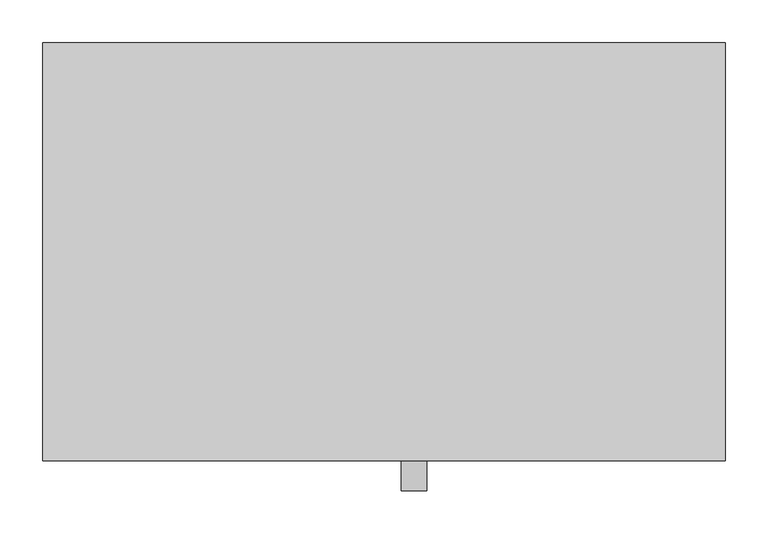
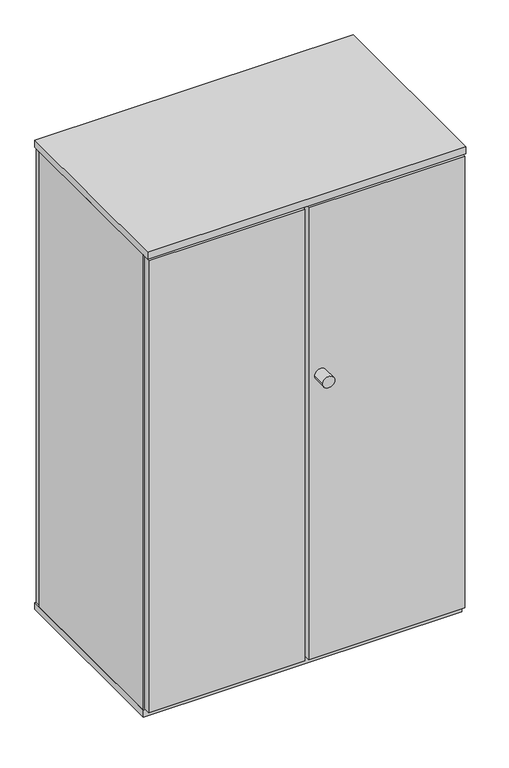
"""IFC4 building model written with IfcOpenShell, lengths in millimetres: furniture geometry, Grid Lockers - 2 Door Complimentary : GRID TWO DOOR CABINET 800mm(w) x 490mm(d) x 1256mm(h)."""

from ifc_helpers import new_model, si_unit, point, frame, frame_2d, origin, origin_with_axes, place, context, project, spatial, polyline, circle_curve, trimmed, segment, composite_curve, outline, extrude, source, transform, mapped, element, save


def furniture_dcb63cc3(model_context):
    return source(origin(), model_context, "Body", "SweptSolid", [
        extrude(outline(composite_curve([segment(trimmed(circle_curve(frame_2d((750.0, -50.0)), 15.0), [point((735.0, -50.0))], [point((765.0, -50.0))], False, "CARTESIAN"), True, "CONTINUOUS"), segment(trimmed(circle_curve(frame_2d((750.0, -50.0)), 15.0), [point((765.0, -50.0))], [point((735.0, -50.0))], False, "CARTESIAN"), True, "CONTINUOUS")], self_intersect=False)), origin_with_axes(), (0.0, 0.0, 1.0), 10.0),
        extrude(outline(composite_curve([segment(trimmed(circle_curve(frame_2d((50.0, -50.0)), 15.0), [point((35.0, -50.0))], [point((65.0, -50.0))], False, "CARTESIAN"), True, "CONTINUOUS"), segment(trimmed(circle_curve(frame_2d((50.0, -50.0)), 15.0), [point((65.0, -50.0))], [point((35.0, -50.0))], False, "CARTESIAN"), True, "CONTINUOUS")], self_intersect=False)), origin_with_axes(), (0.0, 0.0, 1.0), 10.0),
        extrude(outline(composite_curve([segment(trimmed(circle_curve(frame_2d((50.0, -440.0)), 15.0), [point((35.0, -440.0))], [point((65.0, -440.0))], False, "CARTESIAN"), True, "CONTINUOUS"), segment(trimmed(circle_curve(frame_2d((50.0, -440.0)), 15.0), [point((65.0, -440.0))], [point((35.0, -440.0))], False, "CARTESIAN"), True, "CONTINUOUS")], self_intersect=False)), origin_with_axes(), (0.0, 0.0, 1.0), 10.0),
        extrude(outline(composite_curve([segment(trimmed(circle_curve(frame_2d((750.0, -440.0)), 15.0), [point((735.0, -440.0))], [point((765.0, -440.0))], False, "CARTESIAN"), True, "CONTINUOUS"), segment(trimmed(circle_curve(frame_2d((750.0, -440.0)), 15.0), [point((765.0, -440.0))], [point((735.0, -440.0))], False, "CARTESIAN"), True, "CONTINUOUS")], self_intersect=False)), origin_with_axes(), (0.0, 0.0, 1.0), 10.0),
        extrude(outline(polyline([(800.0, -472.0), (0.0, -472.0), (0.0, 0.0), (800.0, 0.0), (800.0, -472.0)])), frame((0.0, 0.0, 10.0), z_axis=(0.0, 0.0, 1.0), x_axis=(1.0, 0.0, 0.0)), (0.0, 0.0, 1.0), 18.0),
        extrude(outline(polyline([(800.0, -490.0), (0.0, -490.0), (0.0, 0.0), (800.0, 0.0), (800.0, -490.0)])), frame((0.0, 0.0, 1238.0), z_axis=(0.0, 0.0, 1.0), x_axis=(1.0, 0.0, 0.0)), (0.0, 0.0, 1.0), 18.0),
        extrude(outline(composite_curve([segment(trimmed(circle_curve(frame_2d((780.0, 435.0)), 15.0), [point((780.0, 420.0))], [point((780.0, 450.0))], False, "CARTESIAN"), True, "CONTINUOUS"), segment(trimmed(circle_curve(frame_2d((780.0, 435.0)), 15.0), [point((780.0, 450.0))], [point((780.0, 420.0))], False, "CARTESIAN"), True, "CONTINUOUS")], self_intersect=False)), frame((0.0, -525.0, 0.0), z_axis=(0.0, 1.0, 0.0), x_axis=(0.0, 0.0, 1.0)), (0.0, 0.0, 1.0), 35.0),
        extrude(outline(polyline([(1238.0, 800.0), (1238.0, 0.0), (28.0, 0.0), (28.0, 3.0), (1213.0, 3.0), (1213.0, 797.0), (28.0, 797.0), (28.0, 800.0), (1238.0, 800.0)])), frame((0.0, -472.0, 0.0), z_axis=(0.0, 1.0, 0.0), x_axis=(0.0, 0.0, 1.0)), (0.0, 0.0, 1.0), 454.0),
        extrude(outline(polyline([(395.0, -472.0), (395.0, -490.0), (3.0, -490.0), (3.0, -472.0), (395.0, -472.0)])), frame((0.0, 0.0, 32.0), z_axis=(0.0, 0.0, 1.0), x_axis=(1.0, 0.0, 0.0)), (0.0, 0.0, 1.0), 1200.0),
        extrude(outline(polyline([(797.0, -490.0), (405.0, -490.0), (405.0, -472.0), (797.0, -472.0), (797.0, -490.0)])), frame((0.0, 0.0, 32.0), z_axis=(0.0, 0.0, 1.0), x_axis=(1.0, 0.0, 0.0)), (0.0, 0.0, 1.0), 1200.0),
        extrude(outline(polyline([(797.0, 0.0), (797.0, -18.0), (3.0, -18.0), (3.0, 0.0), (797.0, 0.0)])), frame((0.0, 0.0, 18.0), z_axis=(0.0, 0.0, 1.0), x_axis=(1.0, 0.0, 0.0)), (0.0, 0.0, 1.0), 1214.0),
    ])


if __name__ == "__main__":
    model = new_model("IFC4")
    model_context = context("Model", 3, world=origin())
    ifc_project = project(units=[si_unit("LENGTHUNIT", "METRE", prefix="MILLI")], contexts=[model_context])
    site = spatial("IfcSite", under=ifc_project)
    building = spatial("IfcBuilding", under=site)
    placement = place(None, origin())
    furniture_shape = furniture_dcb63cc3(model_context)
    element("IfcFurniture", 1, ObjectType="Grid Lockers - 2 Door Complimentary : GRID TWO DOOR CABINET 800mm(w) x 490mm(d) x 1256mm(h)", at=placement, inside=building, context=model_context, shape_type="MappedRepresentation", body=[
        mapped(furniture_shape, transform((0.0, 0.0, 0.0), x_axis=(1.0, 0.0, 0.0), y_axis=(0.0, 1.0, 0.0), z_axis=(0.0, 0.0, 1.0))),
    ])
    save(model, "model.ifc")
